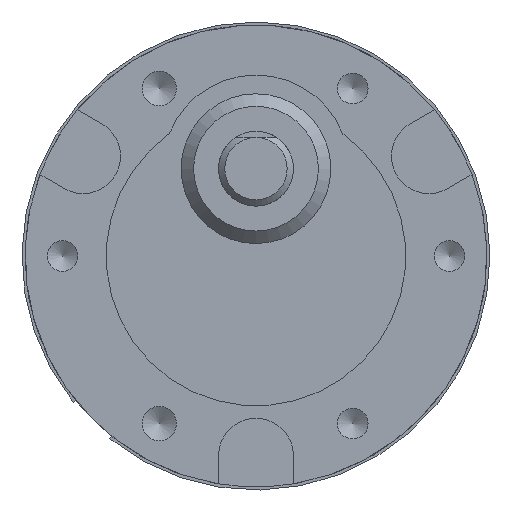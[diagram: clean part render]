
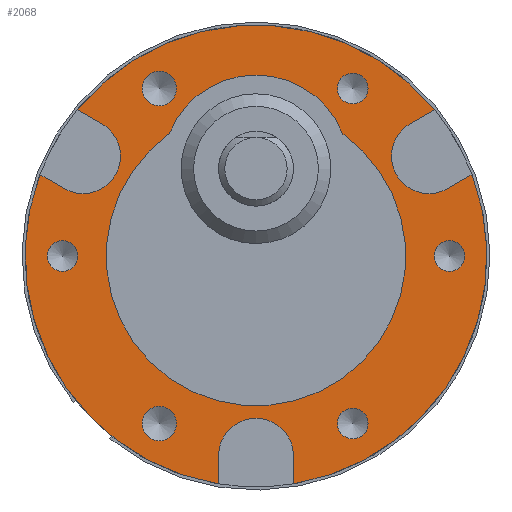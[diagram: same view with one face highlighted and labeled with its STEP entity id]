
A CAD part, front view. The second image highlights one B-rep face of the part: STEP entity #2068.
In plain terms, the highlighted planar face has unit normal (0, -1, 0).
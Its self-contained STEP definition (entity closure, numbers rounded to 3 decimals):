
#1692=CARTESIAN_POINT('',(14.309,0.45,11.726));
#1693=VERTEX_POINT('',#1692);
#1700=CARTESIAN_POINT('',(12.356,0.45,10.598));
#1701=VERTEX_POINT('',#1700);
#1702=CARTESIAN_POINT('',(12.356,0.45,10.598));
#1703=DIRECTION('',(0.866,0.0,0.5));
#1704=VECTOR('',#1703,2.255);
#1705=LINE('',#1702,#1704);
#1706=EDGE_CURVE('',#1701,#1693,#1705,.T.);
#1732=CARTESIAN_POINT('',(15.356,0.45,5.402));
#1733=VERTEX_POINT('',#1732);
#1734=CARTESIAN_POINT('',(13.856,0.45,8.));
#1735=DIRECTION('',(0.0,1.0,0.0));
#1736=DIRECTION('',(-0.5,0.0,0.866));
#1737=AXIS2_PLACEMENT_3D('',#1734,#1735,#1736);
#1738=CIRCLE('',#1737,3.);
#1739=EDGE_CURVE('',#1733,#1701,#1738,.T.);
#1764=CARTESIAN_POINT('',(17.309,0.45,6.529));
#1765=VERTEX_POINT('',#1764);
#1766=CARTESIAN_POINT('',(17.309,0.45,6.529));
#1767=DIRECTION('',(-0.866,0.0,-0.5));
#1768=VECTOR('',#1767,2.255);
#1769=LINE('',#1766,#1768);
#1770=EDGE_CURVE('',#1765,#1733,#1769,.T.);
#1814=CARTESIAN_POINT('',(-17.309,0.45,6.529));
#1815=VERTEX_POINT('',#1814);
#1822=CARTESIAN_POINT('',(-15.356,0.45,5.402));
#1823=VERTEX_POINT('',#1822);
#1824=CARTESIAN_POINT('',(-15.356,0.45,5.402));
#1825=DIRECTION('',(-0.866,0.0,0.5));
#1826=VECTOR('',#1825,2.255);
#1827=LINE('',#1824,#1826);
#1828=EDGE_CURVE('',#1823,#1815,#1827,.T.);
#1854=CARTESIAN_POINT('',(-12.356,0.45,10.598));
#1855=VERTEX_POINT('',#1854);
#1856=CARTESIAN_POINT('',(-13.856,0.45,8.));
#1857=DIRECTION('',(0.0,1.0,0.0));
#1858=DIRECTION('',(-0.5,0.0,-0.866));
#1859=AXIS2_PLACEMENT_3D('',#1856,#1857,#1858);
#1860=CIRCLE('',#1859,3.);
#1861=EDGE_CURVE('',#1855,#1823,#1860,.T.);
#1886=CARTESIAN_POINT('',(-14.309,0.45,11.726));
#1887=VERTEX_POINT('',#1886);
#1888=CARTESIAN_POINT('',(-14.309,0.45,11.726));
#1889=DIRECTION('',(0.866,0.0,-0.5));
#1890=VECTOR('',#1889,2.255);
#1891=LINE('',#1888,#1890);
#1892=EDGE_CURVE('',#1887,#1855,#1891,.T.);
#1921=CARTESIAN_POINT('',(0.0,0.45,0.0));
#1922=DIRECTION('',(0.0,-1.0,0.0));
#1923=DIRECTION('',(0.0,0.0,-1.0));
#1924=AXIS2_PLACEMENT_3D('',#1921,#1922,#1923);
#1925=PLANE('',#1924);
#1926=ORIENTED_EDGE('',*,*,#1770,.T.);
#1927=ORIENTED_EDGE('',*,*,#1739,.T.);
#1928=ORIENTED_EDGE('',*,*,#1706,.T.);
#1929=CARTESIAN_POINT('',(0.0,0.45,0.0));
#1930=DIRECTION('',(0.0,-1.0,0.0));
#1931=DIRECTION('',(1.0,0.0,0.0));
#1932=AXIS2_PLACEMENT_3D('',#1929,#1930,#1931);
#1933=CIRCLE('',#1932,18.5);
#1934=EDGE_CURVE('',#1693,#1887,#1933,.T.);
#1935=ORIENTED_EDGE('',*,*,#1934,.T.);
#1936=ORIENTED_EDGE('',*,*,#1892,.T.);
#1937=ORIENTED_EDGE('',*,*,#1861,.T.);
#1938=ORIENTED_EDGE('',*,*,#1828,.T.);
#1939=CARTESIAN_POINT('',(-3.,0.45,-18.255));
#1940=VERTEX_POINT('',#1939);
#1941=CARTESIAN_POINT('',(0.0,0.45,0.0));
#1942=DIRECTION('',(0.0,-1.0,0.0));
#1943=DIRECTION('',(1.0,0.0,0.0));
#1944=AXIS2_PLACEMENT_3D('',#1941,#1942,#1943);
#1945=CIRCLE('',#1944,18.5);
#1946=EDGE_CURVE('',#1815,#1940,#1945,.T.);
#1947=ORIENTED_EDGE('',*,*,#1946,.T.);
#1948=CARTESIAN_POINT('',(-3.,0.45,-16.0));
#1949=VERTEX_POINT('',#1948);
#1950=CARTESIAN_POINT('',(-3.,0.45,-18.255));
#1951=DIRECTION('',(0.0,0.0,1.0));
#1952=VECTOR('',#1951,2.255);
#1953=LINE('',#1950,#1952);
#1954=EDGE_CURVE('',#1940,#1949,#1953,.T.);
#1955=ORIENTED_EDGE('',*,*,#1954,.T.);
#1956=CARTESIAN_POINT('',(3.,0.45,-16.0));
#1957=VERTEX_POINT('',#1956);
#1958=CARTESIAN_POINT('',(0.0,0.45,-16.0));
#1959=DIRECTION('',(0.0,1.0,0.0));
#1960=DIRECTION('',(1.0,0.0,0.0));
#1961=AXIS2_PLACEMENT_3D('',#1958,#1959,#1960);
#1962=CIRCLE('',#1961,3.);
#1963=EDGE_CURVE('',#1949,#1957,#1962,.T.);
#1964=ORIENTED_EDGE('',*,*,#1963,.T.);
#1965=CARTESIAN_POINT('',(3.,0.45,-18.255));
#1966=VERTEX_POINT('',#1965);
#1967=CARTESIAN_POINT('',(3.,0.45,-16.0));
#1968=DIRECTION('',(0.0,0.0,-1.0));
#1969=VECTOR('',#1968,2.255);
#1970=LINE('',#1967,#1969);
#1971=EDGE_CURVE('',#1957,#1966,#1970,.T.);
#1972=ORIENTED_EDGE('',*,*,#1971,.T.);
#1973=CARTESIAN_POINT('',(0.0,0.45,0.0));
#1974=DIRECTION('',(0.0,-1.0,0.0));
#1975=DIRECTION('',(1.0,0.0,0.0));
#1976=AXIS2_PLACEMENT_3D('',#1973,#1974,#1975);
#1977=CIRCLE('',#1976,18.5);
#1978=EDGE_CURVE('',#1966,#1765,#1977,.T.);
#1979=ORIENTED_EDGE('',*,*,#1978,.T.);
#1980=EDGE_LOOP('',(#1926,#1927,#1928,#1935,#1936,#1937,#1938,#1947,#1955,#1964,#1972,#1979));
#1981=FACE_OUTER_BOUND('',#1980,.T.);
#1982=CARTESIAN_POINT('',(-6.37,0.45,13.423));
#1983=VERTEX_POINT('',#1982);
#1984=CARTESIAN_POINT('',(-7.75,0.45,13.423));
#1985=DIRECTION('',(0.0,1.0,0.0));
#1986=DIRECTION('',(1.0,0.0,0.0));
#1987=AXIS2_PLACEMENT_3D('',#1984,#1985,#1986);
#1988=CIRCLE('',#1987,1.38);
#1989=EDGE_CURVE('',#1983,#1983,#1988,.T.);
#1990=ORIENTED_EDGE('',*,*,#1989,.T.);
#1991=EDGE_LOOP('',(#1990));
#1992=FACE_BOUND('',#1991,.T.);
#1993=CARTESIAN_POINT('',(-6.37,0.45,-13.423));
#1994=VERTEX_POINT('',#1993);
#1995=CARTESIAN_POINT('',(-7.75,0.45,-13.423));
#1996=DIRECTION('',(0.0,1.0,0.0));
#1997=DIRECTION('',(1.0,0.0,0.0));
#1998=AXIS2_PLACEMENT_3D('',#1995,#1996,#1997);
#1999=CIRCLE('',#1998,1.38);
#2000=EDGE_CURVE('',#1994,#1994,#1999,.T.);
#2001=ORIENTED_EDGE('',*,*,#2000,.T.);
#2002=EDGE_LOOP('',(#2001));
#2003=FACE_BOUND('',#2002,.T.);
#2004=CARTESIAN_POINT('',(16.73,0.45,0.0));
#2005=VERTEX_POINT('',#2004);
#2006=CARTESIAN_POINT('',(15.5,0.45,0.0));
#2007=DIRECTION('',(0.0,1.0,0.0));
#2008=DIRECTION('',(1.0,0.0,0.0));
#2009=AXIS2_PLACEMENT_3D('',#2006,#2007,#2008);
#2010=CIRCLE('',#2009,1.23);
#2011=EDGE_CURVE('',#2005,#2005,#2010,.T.);
#2012=ORIENTED_EDGE('',*,*,#2011,.T.);
#2013=EDGE_LOOP('',(#2012));
#2014=FACE_BOUND('',#2013,.T.);
#2015=CARTESIAN_POINT('',(-14.27,0.45,0.0));
#2016=VERTEX_POINT('',#2015);
#2017=CARTESIAN_POINT('',(-15.5,0.45,0.0));
#2018=DIRECTION('',(0.0,1.0,0.0));
#2019=DIRECTION('',(1.0,0.0,0.0));
#2020=AXIS2_PLACEMENT_3D('',#2017,#2018,#2019);
#2021=CIRCLE('',#2020,1.23);
#2022=EDGE_CURVE('',#2016,#2016,#2021,.T.);
#2023=ORIENTED_EDGE('',*,*,#2022,.T.);
#2024=EDGE_LOOP('',(#2023));
#2025=FACE_BOUND('',#2024,.T.);
#2026=CARTESIAN_POINT('',(8.979,0.45,13.423));
#2027=VERTEX_POINT('',#2026);
#2028=CARTESIAN_POINT('',(7.75,0.45,13.423));
#2029=DIRECTION('',(0.0,1.0,0.0));
#2030=DIRECTION('',(1.0,0.0,0.0));
#2031=AXIS2_PLACEMENT_3D('',#2028,#2029,#2030);
#2032=CIRCLE('',#2031,1.23);
#2033=EDGE_CURVE('',#2027,#2027,#2032,.T.);
#2034=ORIENTED_EDGE('',*,*,#2033,.T.);
#2035=EDGE_LOOP('',(#2034));
#2036=FACE_BOUND('',#2035,.T.);
#2037=CARTESIAN_POINT('',(8.979,0.45,-13.423));
#2038=VERTEX_POINT('',#2037);
#2039=CARTESIAN_POINT('',(7.75,0.45,-13.423));
#2040=DIRECTION('',(0.0,1.0,0.0));
#2041=DIRECTION('',(1.0,0.0,0.0));
#2042=AXIS2_PLACEMENT_3D('',#2039,#2040,#2041);
#2043=CIRCLE('',#2042,1.23);
#2044=EDGE_CURVE('',#2038,#2038,#2043,.T.);
#2045=ORIENTED_EDGE('',*,*,#2044,.T.);
#2046=EDGE_LOOP('',(#2045));
#2047=FACE_BOUND('',#2046,.T.);
#2048=CARTESIAN_POINT('',(-6.971,0.45,9.768));
#2049=VERTEX_POINT('',#2048);
#2050=CARTESIAN_POINT('',(6.971,0.45,9.768));
#2051=VERTEX_POINT('',#2050);
#2052=CARTESIAN_POINT('',(0.0,0.45,7.));
#2053=DIRECTION('',(0.0,1.,0.0));
#2054=DIRECTION('',(0.929,0.0,0.369));
#2055=AXIS2_PLACEMENT_3D('',#2052,#2053,#2054);
#2056=CIRCLE('',#2055,7.5);
#2057=EDGE_CURVE('',#2049,#2051,#2056,.T.);
#2058=ORIENTED_EDGE('',*,*,#2057,.T.);
#2059=CARTESIAN_POINT('',(0.0,0.45,0.0));
#2060=DIRECTION('',(0.0,1.0,0.0));
#2061=DIRECTION('',(-0.581,0.0,0.814));
#2062=AXIS2_PLACEMENT_3D('',#2059,#2060,#2061);
#2063=CIRCLE('',#2062,12.0);
#2064=EDGE_CURVE('',#2051,#2049,#2063,.T.);
#2065=ORIENTED_EDGE('',*,*,#2064,.T.);
#2066=EDGE_LOOP('',(#2058,#2065));
#2067=FACE_BOUND('',#2066,.T.);
#2068=ADVANCED_FACE('',(#1981,#1992,#2003,#2014,#2025,#2036,#2047,#2067),#1925,.T.);
